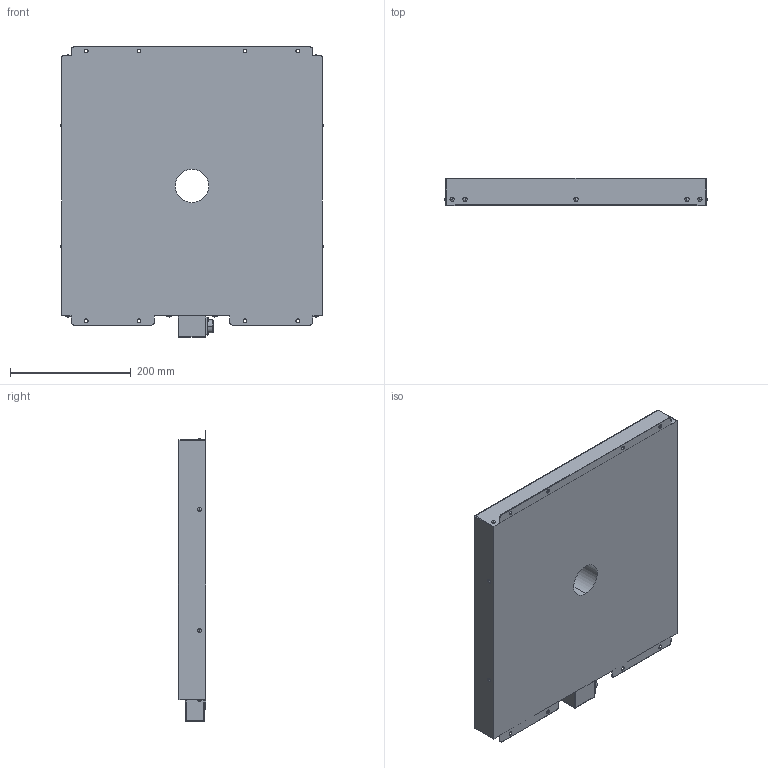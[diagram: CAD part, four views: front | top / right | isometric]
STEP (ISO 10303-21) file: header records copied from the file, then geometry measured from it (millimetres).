
FILE_DESCRIPTION (( 'STEP AP214' ), '1' );
FILE_NAME ('HDSBPA-400x400_-24-55D.STEP', '2023-06-01T07:12:37', ( '' ), ( '' ), 'SwSTEP 2.0', 'SolidWorks 2022', '' );
FILE_SCHEMA (( 'AUTOMOTIVE_DESIGN' ));
Length unit declared in the file: millimetre
Products named in the file (1): HDSBPA-400x400_-24-55D
Bounding box: 433.8 x 45 x 480 mm (x, y, z)
Volume: 8120827.4 mm3; surface area: 478383.7 mm2
Topology: 1 solids, 5 shells, 230 faces, 602 edges, 355 vertices
Faces by surface type: cylinder 114, sphere 54, plane 44, torus 16, cone 2
Entity records: 6658 total; most frequent: DIRECTION 1310, CARTESIAN_POINT 1088, ORIENTED_EDGE 1050, AXIS2_PLACEMENT_3D 554, EDGE_CURVE 525, VERTEX_POINT 332, CIRCLE 323, EDGE_LOOP 283
